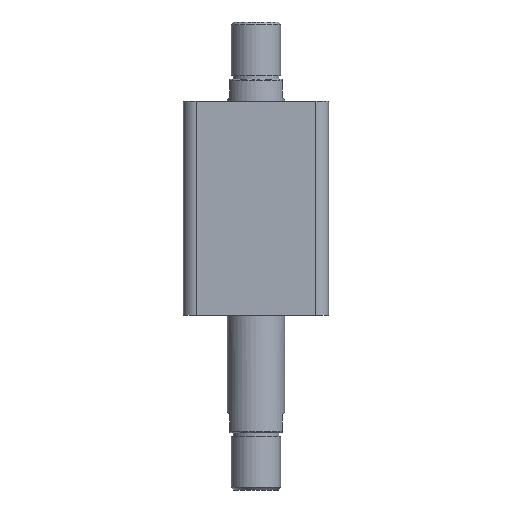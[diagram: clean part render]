
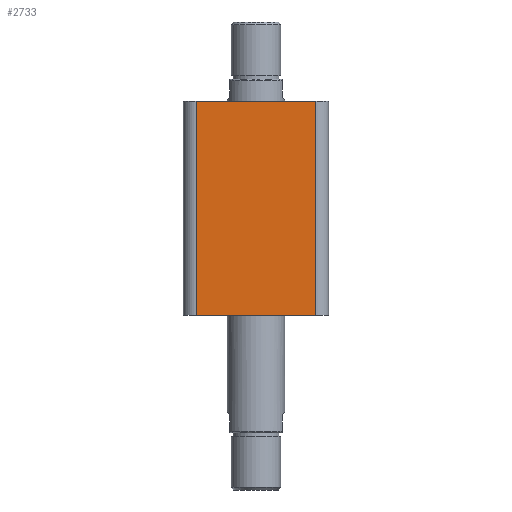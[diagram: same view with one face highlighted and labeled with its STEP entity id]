
A CAD part, front view. The second image highlights one B-rep face of the part: STEP entity #2733.
In plain terms, the highlighted planar face has unit normal (0, -1, 0).
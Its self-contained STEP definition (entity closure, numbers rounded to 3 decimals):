
#574 = AXIS2_PLACEMENT_3D ( 'NONE', #3135, #3144, #3145 ) ;
#1593 = ORIENTED_EDGE ( 'NONE', *, *, #2705, .T. ) ;
#1594 = ORIENTED_EDGE ( 'NONE', *, *, #2704, .F. ) ;
#1595 = ORIENTED_EDGE ( 'NONE', *, *, #2703, .T. ) ;
#1596 = ORIENTED_EDGE ( 'NONE', *, *, #2702, .T. ) ;
#1861 = VERTEX_POINT ( 'NONE', #2807 ) ;
#1864 = VERTEX_POINT ( 'NONE', #2810 ) ;
#1867 = VERTEX_POINT ( 'NONE', #2813 ) ;
#1868 = VERTEX_POINT ( 'NONE', #2814 ) ;
#1918 = EDGE_LOOP ( 'NONE', ( #1596, #1595, #1594, #1593 ) ) ;
#2329 = LINE ( 'NONE', #3042, #2340 ) ;
#2335 = LINE ( 'NONE', #3052, #2338 ) ;
#2338 = VECTOR ( 'NONE', #3053, 1000. ) ;
#2339 = LINE ( 'NONE', #3055, #2342 ) ;
#2340 = VECTOR ( 'NONE', #3054, 1000. ) ;
#2341 = LINE ( 'NONE', #3057, #2344 ) ;
#2342 = VECTOR ( 'NONE', #3056, 1000. ) ;
#2344 = VECTOR ( 'NONE', #3058, 1000. ) ;
#2388 = FACE_OUTER_BOUND ( 'NONE', #1918, .T. ) ;
#2702 = EDGE_CURVE ( 'NONE', #1868, #1867, #2335, .T. ) ;
#2703 = EDGE_CURVE ( 'NONE', #1867, #1861, #2329, .T. ) ;
#2704 = EDGE_CURVE ( 'NONE', #1864, #1861, #2339, .T. ) ;
#2705 = EDGE_CURVE ( 'NONE', #1864, #1868, #2341, .T. ) ;
#2733 = ADVANCED_FACE ( 'NONE', ( #2388 ), #3142, .F. ) ;
#2807 = CARTESIAN_POINT ( 'NONE',  ( 47., -57., 168. ) ) ;
#2810 = CARTESIAN_POINT ( 'NONE',  ( -47., -57., 168. ) ) ;
#2813 = CARTESIAN_POINT ( 'NONE',  ( 47., -57., 0. ) ) ;
#2814 = CARTESIAN_POINT ( 'NONE',  ( -47., -57., 0. ) ) ;
#3042 = CARTESIAN_POINT ( 'NONE',  ( 47., -57., 168. ) ) ;
#3052 = CARTESIAN_POINT ( 'NONE',  ( -57., -57., 0. ) ) ;
#3053 = DIRECTION ( 'NONE',  ( 1., 0., 0. ) ) ;
#3054 = DIRECTION ( 'NONE',  ( 0., 0., 1. ) ) ;
#3055 = CARTESIAN_POINT ( 'NONE',  ( -57., -57., 168. ) ) ;
#3056 = DIRECTION ( 'NONE',  ( 1., 0., 0. ) ) ;
#3057 = CARTESIAN_POINT ( 'NONE',  ( -47., -57., 168. ) ) ;
#3058 = DIRECTION ( 'NONE',  ( 0., 0., -1. ) ) ;
#3135 = CARTESIAN_POINT ( 'NONE',  ( -57., -57., 168. ) ) ;
#3142 = PLANE ( 'NONE',  #574 ) ;
#3144 = DIRECTION ( 'NONE',  ( 0., 1., 0. ) ) ;
#3145 = DIRECTION ( 'NONE',  ( 0., 0., 1. ) ) ;
